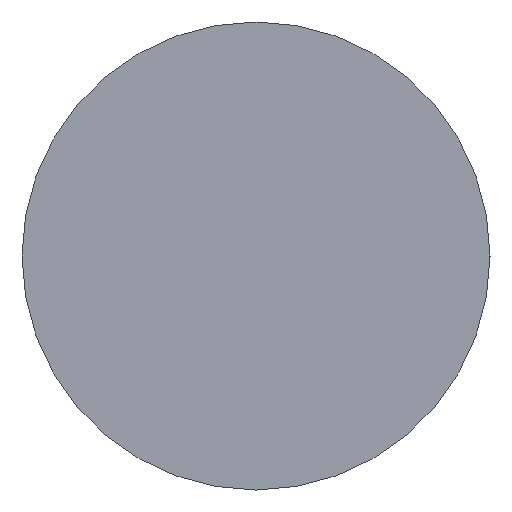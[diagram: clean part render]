
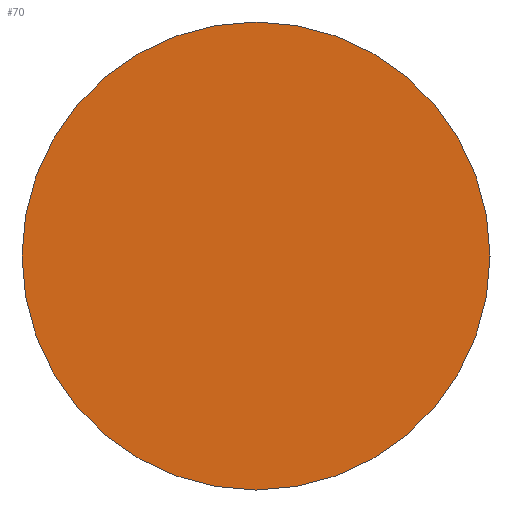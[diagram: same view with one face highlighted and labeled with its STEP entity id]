
A CAD part, left-side view. The second image highlights one B-rep face of the part: STEP entity #70.
In plain terms, the highlighted planar face has unit normal (-1, 0, 0).
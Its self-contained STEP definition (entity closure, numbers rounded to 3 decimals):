
#1=CARTESIAN_POINT('',(0.,0.,0.));
#2=DIRECTION('',(1.,0.,0.));
#3=DIRECTION('',(0.,-1.,0.));
#4=AXIS2_PLACEMENT_3D('',#1,#2,#3);
#6=CARTESIAN_POINT('',(0.,0.,0.));
#7=DIRECTION('',(1.,0.,0.));
#8=DIRECTION('',(0.,1.,0.));
#9=AXIS2_PLACEMENT_3D('',#6,#7,#8);
#47=CARTESIAN_POINT('',(0.,-5.,0.));
#48=CARTESIAN_POINT('',(0.,5.,0.));
#49=VERTEX_POINT('',#47);
#50=VERTEX_POINT('',#48);
#59=CARTESIAN_POINT('',(0.,0.,0.));
#60=DIRECTION('',(1.,0.,0.));
#61=DIRECTION('',(0.,-1.,0.));
#62=AXIS2_PLACEMENT_3D('',#59,#60,#61);
#63=PLANE('',#62);
#65=ORIENTED_EDGE('',*,*,#64,.T.);
#67=ORIENTED_EDGE('',*,*,#66,.T.);
#68=EDGE_LOOP('',(#65,#67));
#69=FACE_OUTER_BOUND('',#68,.F.);
#70=ADVANCED_FACE('',(#69),#63,.F.);
#5=CIRCLE('',#4,5.);
#10=CIRCLE('',#9,5.);
#64=EDGE_CURVE('',#49,#50,#5,.T.);
#66=EDGE_CURVE('',#50,#49,#10,.T.);
